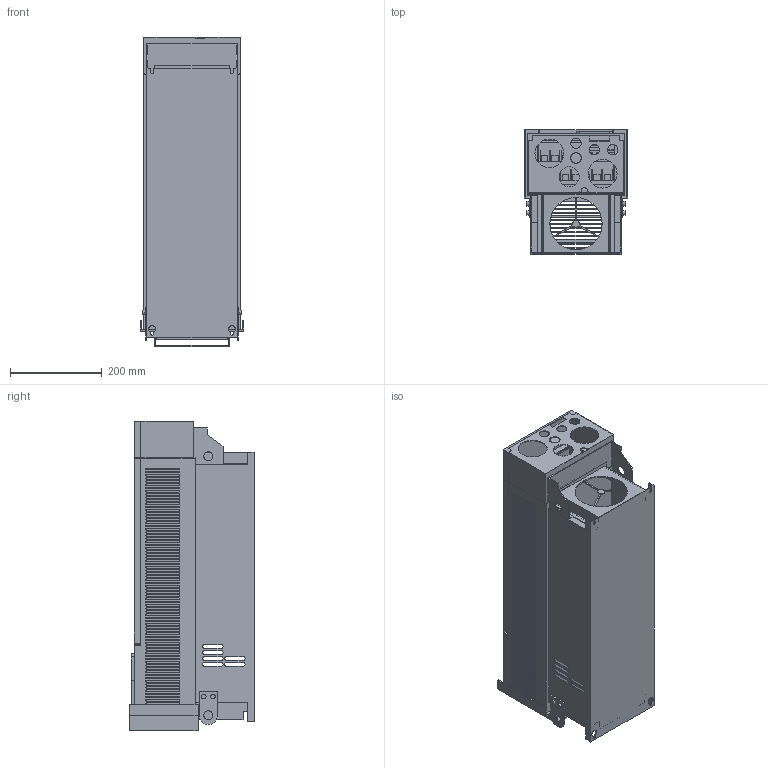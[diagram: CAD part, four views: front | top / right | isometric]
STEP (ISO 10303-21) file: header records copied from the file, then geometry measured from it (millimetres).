
FILE_DESCRIPTION((''),'2;1');
FILE_NAME('ASM0001_ASM','2016-05-13T',('SESA95854'),('Schneider-Electric'),'PRO/ENGINEER BY PARAMETRIC TECHNOLOGY CORPORATION, 2012420','PRO/ENGINEER BY PARAMETRIC TECHNOLOGY CORPORATION, 2012420','');
FILE_SCHEMA(('CONFIG_CONTROL_DESIGN'));
Length unit declared in the file: millimetre
Products named in the file (16): PRT0001; PRT0002; ASM0003_ASM; PRT0003; PRT0004; PRT0005; PRT0006; PRT0007; PRT0008; PRT0009; PRT0010; PRT0011; PRT0012; ASM0004_ASM; ASM0002_ASM; ASM0001_ASM
Assembly tree (15 placements, depth 4):
  ASM0001_ASM
    ASM0002_ASM
      ASM0003_ASM
        PRT0001
        PRT0002
      PRT0003
      PRT0004
      PRT0005
      PRT0006
      PRT0007
      ASM0004_ASM
        PRT0008
        PRT0009
        PRT0010
        PRT0011
        PRT0012
Bounding box: 226 x 271.2 x 673 mm (x, y, z)
Volume: 12466765.1 mm3; surface area: 1839212.7 mm2
Topology: 11 solids, 11 shells, 1841 faces, 5366 edges, 3718 vertices
Faces by surface type: plane 1245, cylinder 595, extrusion 1
Entity records: 62917 total; most frequent: CARTESIAN_POINT 11770, ORIENTED_EDGE 10732, DIRECTION 10597, EDGE_CURVE 5366, VERTEX_POINT 3718, AXIS2_PLACEMENT_3D 3542, VECTOR 3513, LINE 3512
